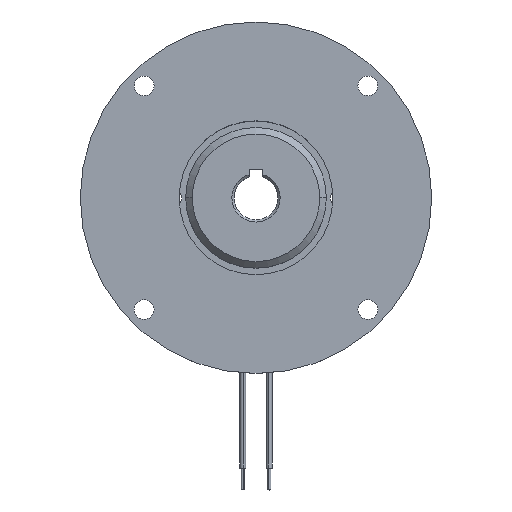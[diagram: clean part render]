
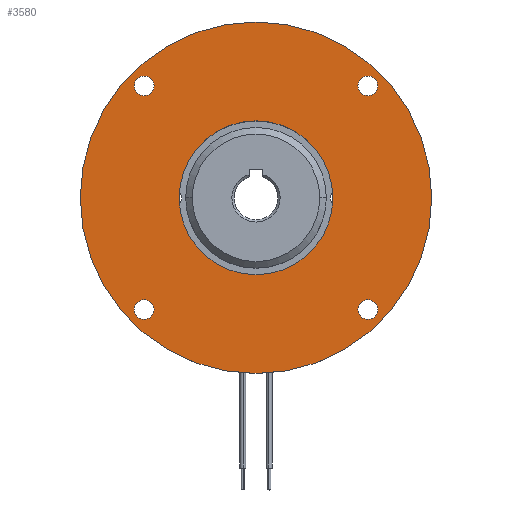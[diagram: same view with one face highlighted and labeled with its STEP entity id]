
A CAD part, top view. The second image highlights one B-rep face of the part: STEP entity #3580.
In plain terms, the highlighted planar face has unit normal (0, 0, 1).
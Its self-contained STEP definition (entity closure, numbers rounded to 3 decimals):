
#2 = CARTESIAN_POINT ( 'NONE',  ( 0., 0., 0. ) ) ;
#49 = CARTESIAN_POINT ( 'NONE',  ( -40., 0., 0. ) ) ;
#81 = AXIS2_PLACEMENT_3D ( 'NONE', #4843, #5915, #4179 ) ;
#118 = DIRECTION ( 'NONE',  ( -1., 0., 0. ) ) ;
#156 = AXIS2_PLACEMENT_3D ( 'NONE', #3790, #3242, #118 ) ;
#253 = EDGE_CURVE ( 'NONE', #1086, #2142, #4648, .T. ) ;
#426 = CIRCLE ( 'NONE', #4149, 2.25 ) ;
#493 = FACE_BOUND ( 'NONE', #6637, .T. ) ;
#497 = CIRCLE ( 'NONE', #4822, 2.25 ) ;
#528 = PLANE ( 'NONE',  #2222 ) ;
#747 = VERTEX_POINT ( 'NONE', #2093 ) ;
#753 = EDGE_CURVE ( 'NONE', #4861, #3289, #497, .T. ) ;
#784 = DIRECTION ( 'NONE',  ( 0., 0., -1. ) ) ;
#788 = CARTESIAN_POINT ( 'NONE',  ( 17.5, 0., 0. ) ) ;
#922 = DIRECTION ( 'NONE',  ( 0., 0., -1. ) ) ;
#925 = ORIENTED_EDGE ( 'NONE', *, *, #753, .T. ) ;
#1048 = ORIENTED_EDGE ( 'NONE', *, *, #1301, .T. ) ;
#1086 = VERTEX_POINT ( 'NONE', #4651 ) ;
#1087 = DIRECTION ( 'NONE',  ( -1., 0., 0. ) ) ;
#1208 = EDGE_LOOP ( 'NONE', ( #7241, #6949 ) ) ;
#1217 = EDGE_CURVE ( 'NONE', #747, #2984, #4578, .T. ) ;
#1241 = EDGE_CURVE ( 'NONE', #2142, #1086, #3752, .T. ) ;
#1301 = EDGE_CURVE ( 'NONE', #6047, #6654, #6407, .T. ) ;
#1353 = CARTESIAN_POINT ( 'NONE',  ( -25.456, 25.456, 0. ) ) ;
#1433 = CARTESIAN_POINT ( 'NONE',  ( -25.456, -25.456, 0. ) ) ;
#1472 = CARTESIAN_POINT ( 'NONE',  ( -17.5, 0., 0. ) ) ;
#1489 = CARTESIAN_POINT ( 'NONE',  ( 25.456, -25.456, 0. ) ) ;
#1571 = VERTEX_POINT ( 'NONE', #6983 ) ;
#1599 = DIRECTION ( 'NONE',  ( -1., 0., 0. ) ) ;
#1619 = CARTESIAN_POINT ( 'NONE',  ( 25.456, -25.456, 0. ) ) ;
#1628 = EDGE_CURVE ( 'NONE', #5601, #1571, #2034, .T. ) ;
#1778 = CIRCLE ( 'NONE', #3834, 2.25 ) ;
#1788 = DIRECTION ( 'NONE',  ( 0., 0., -1. ) ) ;
#1790 = CARTESIAN_POINT ( 'NONE',  ( 23.206, 25.456, 0. ) ) ;
#1884 = AXIS2_PLACEMENT_3D ( 'NONE', #2, #2397, #2863 ) ;
#1937 = EDGE_CURVE ( 'NONE', #3289, #4861, #1778, .T. ) ;
#2034 = CIRCLE ( 'NONE', #5278, 40. ) ;
#2093 = CARTESIAN_POINT ( 'NONE',  ( -23.206, -25.456, 0. ) ) ;
#2133 = DIRECTION ( 'NONE',  ( -1., 0., 0. ) ) ;
#2142 = VERTEX_POINT ( 'NONE', #5344 ) ;
#2168 = DIRECTION ( 'NONE',  ( 0., 0., -1. ) ) ;
#2205 = DIRECTION ( 'NONE',  ( 0., 0., -1. ) ) ;
#2222 = AXIS2_PLACEMENT_3D ( 'NONE', #3898, #2349, #1599 ) ;
#2307 = EDGE_LOOP ( 'NONE', ( #4143, #3128 ) ) ;
#2327 = ORIENTED_EDGE ( 'NONE', *, *, #4740, .T. ) ;
#2349 = DIRECTION ( 'NONE',  ( 0., 0., -1. ) ) ;
#2397 = DIRECTION ( 'NONE',  ( 0., 0., -1. ) ) ;
#2518 = DIRECTION ( 'NONE',  ( -1., 0., 0. ) ) ;
#2569 = DIRECTION ( 'NONE',  ( -1., 0., 0. ) ) ;
#2577 = CIRCLE ( 'NONE', #6783, 40. ) ;
#2687 = CARTESIAN_POINT ( 'NONE',  ( 25.456, 25.456, 0. ) ) ;
#2863 = DIRECTION ( 'NONE',  ( -1., 0., 0. ) ) ;
#2984 = VERTEX_POINT ( 'NONE', #6324 ) ;
#3127 = ORIENTED_EDGE ( 'NONE', *, *, #1217, .T. ) ;
#3128 = ORIENTED_EDGE ( 'NONE', *, *, #6554, .F. ) ;
#3179 = CARTESIAN_POINT ( 'NONE',  ( 27.706, 25.456, 0. ) ) ;
#3242 = DIRECTION ( 'NONE',  ( 0., 0., -1. ) ) ;
#3289 = VERTEX_POINT ( 'NONE', #1790 ) ;
#3473 = VERTEX_POINT ( 'NONE', #1472 ) ;
#3480 = EDGE_CURVE ( 'NONE', #2984, #747, #6684, .T. ) ;
#3580 = ADVANCED_FACE ( 'NONE', ( #5095, #5023, #4532, #493, #3971, #4466 ), #528, .F. ) ;
#3680 = CIRCLE ( 'NONE', #4867, 17.5 ) ;
#3752 = CIRCLE ( 'NONE', #5556, 2.25 ) ;
#3790 = CARTESIAN_POINT ( 'NONE',  ( -25.456, -25.456, 0. ) ) ;
#3815 = DIRECTION ( 'NONE',  ( 0., 0., -1. ) ) ;
#3825 = ORIENTED_EDGE ( 'NONE', *, *, #3480, .T. ) ;
#3834 = AXIS2_PLACEMENT_3D ( 'NONE', #2687, #3815, #7202 ) ;
#3898 = CARTESIAN_POINT ( 'NONE',  ( 0., 40., 0. ) ) ;
#3971 = FACE_OUTER_BOUND ( 'NONE', #2307, .T. ) ;
#4065 = EDGE_LOOP ( 'NONE', ( #1048, #2327 ) ) ;
#4143 = ORIENTED_EDGE ( 'NONE', *, *, #1628, .F. ) ;
#4149 = AXIS2_PLACEMENT_3D ( 'NONE', #1489, #784, #2569 ) ;
#4169 = CIRCLE ( 'NONE', #1884, 17.5 ) ;
#4179 = DIRECTION ( 'NONE',  ( -1., 0., 0. ) ) ;
#4310 = DIRECTION ( 'NONE',  ( -1., 0., 0. ) ) ;
#4466 = FACE_BOUND ( 'NONE', #1208, .T. ) ;
#4532 = FACE_BOUND ( 'NONE', #4872, .T. ) ;
#4578 = CIRCLE ( 'NONE', #5299, 2.25 ) ;
#4648 = CIRCLE ( 'NONE', #81, 2.25 ) ;
#4651 = CARTESIAN_POINT ( 'NONE',  ( -27.706, 25.456, 0. ) ) ;
#4661 = ORIENTED_EDGE ( 'NONE', *, *, #1241, .T. ) ;
#4740 = EDGE_CURVE ( 'NONE', #6654, #6047, #426, .T. ) ;
#4822 = AXIS2_PLACEMENT_3D ( 'NONE', #6814, #2205, #7411 ) ;
#4843 = CARTESIAN_POINT ( 'NONE',  ( -25.456, 25.456, 0. ) ) ;
#4861 = VERTEX_POINT ( 'NONE', #3179 ) ;
#4867 = AXIS2_PLACEMENT_3D ( 'NONE', #6762, #5689, #5126 ) ;
#4872 = EDGE_LOOP ( 'NONE', ( #3825, #3127 ) ) ;
#4941 = DIRECTION ( 'NONE',  ( -1., 0., 0. ) ) ;
#5023 = FACE_BOUND ( 'NONE', #4065, .T. ) ;
#5095 = FACE_BOUND ( 'NONE', #6214, .T. ) ;
#5126 = DIRECTION ( 'NONE',  ( -1., 0., 0. ) ) ;
#5187 = AXIS2_PLACEMENT_3D ( 'NONE', #1619, #7287, #1087 ) ;
#5278 = AXIS2_PLACEMENT_3D ( 'NONE', #5372, #1788, #2518 ) ;
#5299 = AXIS2_PLACEMENT_3D ( 'NONE', #1433, #922, #4941 ) ;
#5316 = CARTESIAN_POINT ( 'NONE',  ( 27.706, -25.456, 0. ) ) ;
#5344 = CARTESIAN_POINT ( 'NONE',  ( -23.206, 25.456, 0. ) ) ;
#5372 = CARTESIAN_POINT ( 'NONE',  ( 0., 0., 0. ) ) ;
#5538 = EDGE_CURVE ( 'NONE', #7285, #3473, #4169, .T. ) ;
#5556 = AXIS2_PLACEMENT_3D ( 'NONE', #1353, #5971, #4310 ) ;
#5601 = VERTEX_POINT ( 'NONE', #49 ) ;
#5689 = DIRECTION ( 'NONE',  ( 0., 0., -1. ) ) ;
#5841 = EDGE_CURVE ( 'NONE', #3473, #7285, #3680, .T. ) ;
#5915 = DIRECTION ( 'NONE',  ( 0., 0., -1. ) ) ;
#5971 = DIRECTION ( 'NONE',  ( 0., 0., -1. ) ) ;
#6047 = VERTEX_POINT ( 'NONE', #7272 ) ;
#6214 = EDGE_LOOP ( 'NONE', ( #6233, #925 ) ) ;
#6233 = ORIENTED_EDGE ( 'NONE', *, *, #1937, .T. ) ;
#6250 = ORIENTED_EDGE ( 'NONE', *, *, #253, .T. ) ;
#6324 = CARTESIAN_POINT ( 'NONE',  ( -27.706, -25.456, 0. ) ) ;
#6407 = CIRCLE ( 'NONE', #5187, 2.25 ) ;
#6554 = EDGE_CURVE ( 'NONE', #1571, #5601, #2577, .T. ) ;
#6637 = EDGE_LOOP ( 'NONE', ( #6250, #4661 ) ) ;
#6654 = VERTEX_POINT ( 'NONE', #5316 ) ;
#6684 = CIRCLE ( 'NONE', #156, 2.25 ) ;
#6762 = CARTESIAN_POINT ( 'NONE',  ( 0., 0., 0. ) ) ;
#6783 = AXIS2_PLACEMENT_3D ( 'NONE', #7303, #2168, #2133 ) ;
#6814 = CARTESIAN_POINT ( 'NONE',  ( 25.456, 25.456, 0. ) ) ;
#6949 = ORIENTED_EDGE ( 'NONE', *, *, #5538, .T. ) ;
#6983 = CARTESIAN_POINT ( 'NONE',  ( 40., 0., 0. ) ) ;
#7202 = DIRECTION ( 'NONE',  ( -1., 0., 0. ) ) ;
#7241 = ORIENTED_EDGE ( 'NONE', *, *, #5841, .T. ) ;
#7272 = CARTESIAN_POINT ( 'NONE',  ( 23.206, -25.456, 0. ) ) ;
#7285 = VERTEX_POINT ( 'NONE', #788 ) ;
#7287 = DIRECTION ( 'NONE',  ( 0., 0., -1. ) ) ;
#7303 = CARTESIAN_POINT ( 'NONE',  ( 0., 0., 0. ) ) ;
#7411 = DIRECTION ( 'NONE',  ( -1., 0., 0. ) ) ;
